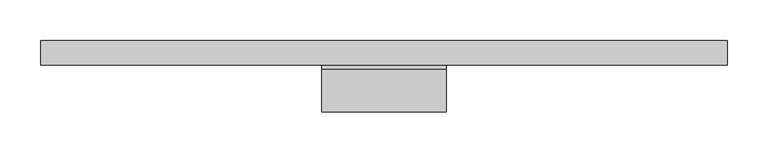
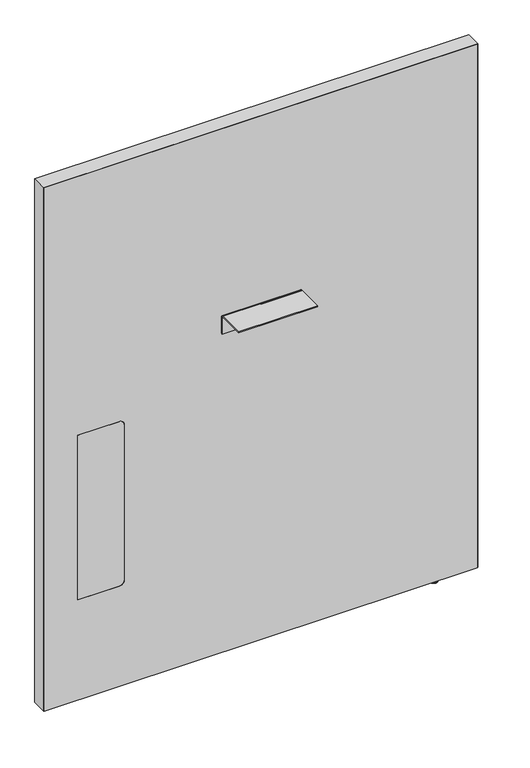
"""IFC4 building model written with IfcOpenShell, lengths in millimetres: furniture geometry, Steelcase - Answer Solution - Boundary Screen - Straight - Single Sided : 42H x 33W."""

from ifc_helpers import new_model, si_unit, point, frame, frame_2d, origin, place, context, project, spatial, polyline, circle_curve, ellipse_curve, trimmed, segment, composite_curve, outline, extrude, source, transform, mapped, element, save
from ifc_brep_helpers import plane_surface, cylinder_surface, revolved_surface, advanced_brep


def furniture_463d4f80(model_context):
    return source(origin(), model_context, "Body", "SolidModel", [
        extrude(outline(composite_curve([segment(polyline([(-86.8398151, 696.4680019), (-86.8398151, 698.5), (-34.9450855, 698.5)]), True, "CONTINUOUS"), segment(trimmed(circle_curve(frame_2d((-34.9450855, 693.2447477)), 5.2552523), [point((-34.9450855, 698.5))], [point((-29.6898332, 693.2447477))], False, "CARTESIAN"), True, "CONTINUOUS"), segment(polyline([(-29.6898332, 693.2447477), (-29.6898332, 660.4), (-31.7218162, 660.4), (-31.7218162, 693.0058743)]), True, "CONTINUOUS"), segment(trimmed(circle_curve(frame_2d((-35.1839438, 693.0058743)), 3.4621276), [point((-31.7218162, 693.0058743))], [point((-35.1839438, 696.4680019))], True, "CARTESIAN"), True, "CONTINUOUS"), segment(polyline([(-35.1839438, 696.4680019), (-86.8398151, 696.4680019)]), True, "CONTINUOUS")], self_intersect=False)), frame((-303.5808593, 0.0, 0.0), z_axis=(1.0, 0.0, 0.0), x_axis=(0.0, 1.0, 0.0)), (0.0, 0.0, 1.0), 152.4000969),
        advanced_brep(
        [(114.5286488, -23.7588726, 9.9059849), (114.5286488, -5.9309607, 9.9059849), (114.5286488, -14.8449166, 9.9059849), (114.5286488, -23.7588726, 2.9673238), (114.5286488, -5.9309607, 2.9673238), (114.5286488, -22.7915354, 2.9673238), (114.5286488, -6.8982978, 2.9673238), (114.5286488, -22.7915354, 1.6569081), (114.5286488, -6.8982978, 1.6569081), (114.5286488, -21.1346274, 0.0), (114.5286488, -8.5552059, 0.0), (114.5286488, -14.8449166, 0.0)],
        [
            (0, 1, circle_curve(frame((114.5286488, -14.8449166, 9.9059849), z_axis=(0.0, 0.0, 1.0), x_axis=(0.0, 1.0, 0.0)), 8.913956)),
            (1, 2),
            (2, 0),
            (1, 0, circle_curve(frame((114.5286488, -14.8449166, 9.9059849), z_axis=(0.0, 0.0, 1.0), x_axis=(0.0, 1.0, 0.0)), 8.913956)),
            (3, 4, circle_curve(frame((114.5286488, -14.8449166, 2.9673238), z_axis=(0.0, 0.0, 1.0), x_axis=(0.0, 1.0, 0.0)), 8.913956)),
            (4, 1),
            (0, 3),
            (4, 3, circle_curve(frame((114.5286488, -14.8449166, 2.9673238), z_axis=(0.0, 0.0, 1.0), x_axis=(0.0, 1.0, 0.0)), 8.913956)),
            (5, 6, circle_curve(frame((114.5286488, -14.8449166, 2.9673238), z_axis=(0.0, 0.0, 1.0), x_axis=(0.0, 1.0, 0.0)), 7.9466188)),
            (6, 4),
            (3, 5),
            (6, 5, circle_curve(frame((114.5286488, -14.8449166, 2.9673238), z_axis=(0.0, 0.0, 1.0), x_axis=(0.0, 1.0, 0.0)), 7.9466188)),
            (7, 8, circle_curve(frame((114.5286488, -14.8449166, 1.6569081), z_axis=(0.0, 0.0, 1.0), x_axis=(0.0, 1.0, 0.0)), 7.9466188)),
            (8, 6),
            (5, 7),
            (8, 7, circle_curve(frame((114.5286488, -14.8449166, 1.6569081), z_axis=(0.0, 0.0, 1.0), x_axis=(0.0, 1.0, 0.0)), 7.9466188)),
            (9, 10, circle_curve(frame((114.5286488, -14.8449166, 0.0), z_axis=(0.0, 0.0, 1.0), x_axis=(0.0, 1.0, 0.0)), 6.2897107)),
            (10, 8, circle_curve(frame((114.5286488, -8.5552059, 1.6569081), z_axis=(1.0, 0.0, 0.0), x_axis=(0.0, 1.0, 0.0)), 1.6569081)),
            (7, 9, circle_curve(frame((114.5286488, -21.1346274, 1.6569081), z_axis=(1.0, 0.0, 0.0), x_axis=(0.0, -1.0, 0.0)), 1.6569081)),
            (10, 9, circle_curve(frame((114.5286488, -14.8449166, 0.0), z_axis=(0.0, 0.0, 1.0), x_axis=(0.0, 1.0, 0.0)), 6.2897107)),
            (11, 10),
            (9, 11),
        ],
        [
            plane_surface(frame((114.5286488, -14.8449166, 9.9059849), z_axis=(0.0, 0.0, 1.0), x_axis=(0.0, 1.0, 0.0))),
            cylinder_surface(frame((114.5286488, -14.8449166, 9.9059849), z_axis=(0.0, 0.0, -1.0), x_axis=(0.0, 1.0, 0.0)), 8.913956),
            plane_surface(frame((114.5286488, -14.8449166, 2.9673238), z_axis=(0.0, 0.0, -1.0), x_axis=(0.0, 1.0, 0.0))),
            cylinder_surface(frame((114.5286488, -14.8449166, 9.9059849), z_axis=(0.0, 0.0, -1.0), x_axis=(0.0, 1.0, 0.0)), 7.9466188),
            revolved_surface(trimmed(ellipse_curve(frame((114.5286488, -8.5552059, 1.6569081), z_axis=(-1.0, 0.0, 0.0), x_axis=(0.0, 1.0, 0.0)), 1.6569081, 1.6569081), [point((114.5286488, -6.8982978, 1.6569081))], [point((114.5286488, -8.5552059, 0.0))], True, "CARTESIAN"), (114.5286488, -14.8449166, 9.9059849), (0.0, 0.0, -1.0)),
            plane_surface(frame((114.5286488, -14.8449166, 0.0), z_axis=(0.0, 0.0, -1.0), x_axis=(0.0, 1.0, 0.0))),
        ],
        [
            (0, [[1, 2, 3]]),
            (0, [[4, -3, -2]]),
            (1, [[5, 6, -1, 7]]),
            (1, [[8, -7, -4, -6]]),
            (2, [[9, 10, -5, 11]]),
            (2, [[12, -11, -8, -10]]),
            (3, [[13, 14, -9, 15]]),
            (3, [[16, -15, -12, -14]]),
            (4, [[17, 18, -13, 19]]),
            (4, [[20, -19, -16, -18]]),
            (5, [[21, -17, 22]]),
            (5, [[-22, -20, -21]]),
        ],
    ),
        advanced_brep(
        [(190.6780168, 0.0, 1076.742118), (190.6780168, 0.0, 9.9059849), (-645.4902221, 0.0, 9.9059849), (-645.4902221, 0.0, 1076.742118), (190.6780168, -29.6898332, 1076.742118), (-645.4902221, -29.6898332, 1076.742118), (-645.4902221, -29.6898332, 9.9059849), (190.6780168, -29.6898332, 9.9059849), (-501.1463873, -29.6898332, 549.6162029), (-490.9863873, -29.6898332, 539.4562029), (-490.9863873, -29.6898332, 223.9362137), (-501.1463873, -29.6898332, 213.7762137), (-580.800285, -29.6898332, 213.7762137), (-580.800285, -29.6898332, 549.6162029), (-580.800285, -29.0550397, 549.6162029), (-501.1463873, -29.0550397, 549.6162029), (-580.800285, -29.0550397, 213.7762137), (-501.1463873, -29.0550397, 213.7762137), (-490.9863873, -29.0550397, 223.9362137), (-490.9863873, -29.0550397, 539.4562029)],
        [
            (0, 1),
            (1, 2),
            (2, 3),
            (3, 0),
            (4, 5),
            (5, 6),
            (6, 7),
            (7, 4),
            (8, 9, circle_curve(frame((-501.1463873, -29.6898332, 539.4562029), z_axis=(0.0, 1.0, 0.0), x_axis=(0.0, 0.0, 1.0)), 10.16)),
            (9, 10),
            (10, 11, circle_curve(frame((-501.1463873, -29.6898332, 223.9362137), z_axis=(0.0, 1.0, 0.0), x_axis=(0.0, 0.0, 1.0)), 10.16)),
            (11, 12),
            (12, 13),
            (13, 8),
            (0, 4),
            (7, 1),
            (6, 2),
            (5, 3),
            (13, 14),
            (14, 15),
            (15, 8),
            (12, 16),
            (16, 14),
            (11, 17),
            (17, 16),
            (10, 18),
            (18, 17, circle_curve(frame((-501.1463873, -29.0550397, 223.9362137), z_axis=(0.0, 1.0, 0.0), x_axis=(0.0, 0.0, 1.0)), 10.16)),
            (9, 19),
            (19, 18),
            (15, 19, circle_curve(frame((-501.1463873, -29.0550397, 539.4562029), z_axis=(0.0, 1.0, 0.0), x_axis=(0.0, 0.0, 1.0)), 10.16)),
        ],
        [
            plane_surface(frame((190.6780168, 0.0, 1076.742118), z_axis=(0.0, 1.0, 0.0), x_axis=(0.0, 0.0, -1.0))),
            plane_surface(frame((190.6780168, -29.6898332, 1076.742118), z_axis=(0.0, -1.0, 0.0), x_axis=(0.0, 0.0, 1.0))),
            plane_surface(frame((190.6780168, 0.0, 1076.742118), z_axis=(1.0, 0.0, 0.0), x_axis=(0.0, -1.0, 0.0))),
            plane_surface(frame((190.6780168, 0.0, 9.9059849), z_axis=(0.0, 0.0, -1.0), x_axis=(0.0, -1.0, 0.0))),
            plane_surface(frame((-645.4902221, 0.0, 9.9059849), z_axis=(-1.0, 0.0, 0.0), x_axis=(0.0, -1.0, 0.0))),
            plane_surface(frame((-645.4902221, 0.0, 1076.742118), z_axis=(0.0, 0.0, 1.0), x_axis=(0.0, -1.0, 0.0))),
            plane_surface(frame((-501.1463873, 0.0, 549.6162029), z_axis=(0.0, 0.0, -1.0), x_axis=(0.0, -1.0, 0.0))),
            plane_surface(frame((-580.800285, 0.0, 549.6162029), z_axis=(1.0, 0.0, 0.0), x_axis=(0.0, -1.0, 0.0))),
            plane_surface(frame((-580.800285, 0.0, 213.7762137), z_axis=(0.0, 0.0, 1.0), x_axis=(0.0, -1.0, 0.0))),
            revolved_surface(polyline([(-501.1463873, -29.6898332, 234.0962137), (-501.1463873, -29.0550397, 234.0962137)]), (-501.1463873, -29.6898332, 223.9362137), (0.0, -1.0, 0.0)),
            plane_surface(frame((-490.9863873, 0.0, 223.9362137), z_axis=(-1.0, 0.0, 0.0), x_axis=(0.0, -1.0, 0.0))),
            revolved_surface(polyline([(-501.1463873, -29.6898332, 549.6162029), (-501.1463873, -29.0550397, 549.6162029)]), (-501.1463873, -29.6898332, 539.4562029), (0.0, -1.0, 0.0)),
            plane_surface(frame((-490.9863873, -29.0550397, 629.172953), z_axis=(0.0, -1.0, 0.0), x_axis=(0.0, 0.0, 1.0))),
        ],
        [
            (0, [[1, 2, 3, 4]]),
            (1, [[5, 6, 7, 8], [9, 10, 11, 12, 13, 14]]),
            (2, [[-1, 15, -8, 16]]),
            (3, [[-2, -16, -7, 17]]),
            (4, [[-3, -17, -6, 18]]),
            (5, [[-4, -18, -5, -15]]),
            (6, [[-14, 19, 20, 21]]),
            (7, [[-13, 22, 23, -19]]),
            (8, [[-12, 24, 25, -22]]),
            (9, [[-11, 26, 27, -24]]),
            (10, [[-10, 28, 29, -26]]),
            (11, [[-9, -21, 30, -28]]),
            (12, [[-20, -23, -25, -27, -29, -30]]),
        ],
    ),
        extrude(outline(composite_curve([segment(polyline([(549.6162029, -501.1463873), (549.6162029, -580.800285), (213.7762137, -580.800285), (213.7762137, -501.1463873)]), True, "CONTINUOUS"), segment(trimmed(circle_curve(frame_2d((223.9362137, -501.1463873)), 10.16), [point((213.7762137, -501.1463873))], [point((223.9362137, -490.9863873))], False, "CARTESIAN"), True, "CONTINUOUS"), segment(polyline([(223.9362137, -490.9863873), (539.4562029, -490.9863873)]), True, "CONTINUOUS"), segment(trimmed(circle_curve(frame_2d((539.4562029, -501.1463873)), 10.16), [point((539.4562029, -490.9863873))], [point((549.6162029, -501.1463873))], False, "CARTESIAN"), True, "CONTINUOUS")], self_intersect=False)), frame((0.0, -29.6898332, 0.0), z_axis=(0.0, 1.0, 0.0), x_axis=(0.0, 0.0, 1.0)), (0.0, 0.0, 1.0), 0.6347935),
        extrude(outline(polyline([(1077.722, 191.7191891), (1077.722, -646.4808109), (9.9059849, -646.4808109), (9.9059849, -645.4902221), (1076.742118, -645.4902221), (1076.742118, 190.6780168), (9.9059849, 190.6780168), (9.9059849, 191.7191891), (1077.722, 191.7191891)])), frame((0.0, -29.6898332, 0.0), z_axis=(0.0, 1.0, 0.0), x_axis=(0.0, 0.0, 1.0)), (0.0, 0.0, 1.0), 29.6898332),
    ])


if __name__ == "__main__":
    model = new_model("IFC4")
    model_context = context("Model", 3, world=origin())
    ifc_project = project(units=[si_unit("LENGTHUNIT", "METRE", prefix="MILLI")], contexts=[model_context])
    site = spatial("IfcSite", under=ifc_project)
    building = spatial("IfcBuilding", under=site)
    placement = place(None, origin())
    furniture_shape = furniture_463d4f80(model_context)
    element("IfcFurniture", 1, ObjectType="Steelcase - Answer Solution - Boundary Screen - Straight - Single Sided : 42H x 33W", at=placement, inside=building, context=model_context, shape_type="MappedRepresentation", body=[
        mapped(furniture_shape, transform((0.0, 0.0, 0.0), x_axis=(1.0, 0.0, 0.0), y_axis=(0.0, 1.0, 0.0), z_axis=(0.0, 0.0, 1.0))),
    ])
    save(model, "model.ifc")
